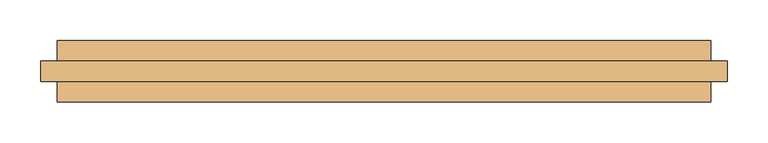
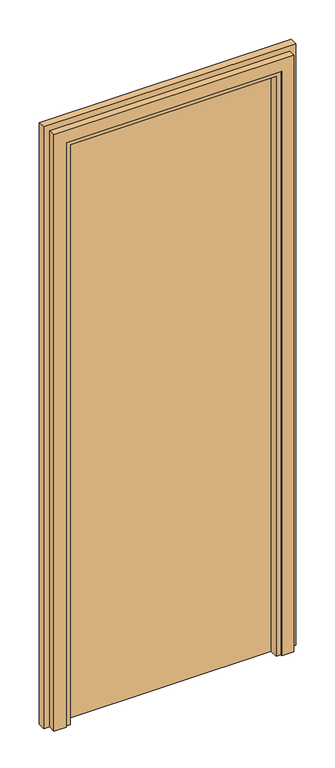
"""IFC4 building model written with IfcOpenShell, lengths in millimetres: door geometry, VERTI AERO - dveřní panel : AERO - dveřní panel."""

from ifc_helpers import new_model, si_unit, origin, origin_with_axes, place, context, project, spatial, polyline, outline, extrude, faceted_brep, source, transform, mapped, element, save


def door_572b5066(model_context):
    return source(origin(), model_context, "Body", "SolidModel", [
        extrude(outline(polyline([(359.0, -2.5), (-359.0, -2.5), (-359.0, 5.5), (359.0, 5.5), (359.0, -2.5)])), origin_with_axes(), (0.0, 0.0, 1.0), 2084.0),
        faceted_brep([(-359.0, -37.5, 0.0), (-400.0, -37.5, 0.0), (-400.0, -12.5, 0.0), (-420.0, -12.5, 0.0), (-420.0, 12.5, 0.0), (-400.0, 12.5, 0.0), (-400.0, 37.5, 0.0), (-359.0, 37.5, 0.0), (-359.0, -2.5, 0.0), (-343.0, -2.5, 0.0), (-343.0, -32.5, 0.0), (-359.0, -32.5, 0.0), (-359.0, -37.5, 2059.0), (359.0, -37.5, 2059.0), (359.0, -37.5, 0.0), (400.0, -37.5, 0.0), (400.0, -37.5, 2100.0), (-400.0, -37.5, 2100.0), (-400.0, -12.5, 2100.0), (400.0, -12.5, 2100.0), (400.0, -12.5, 0.0), (420.0, -12.5, 0.0), (420.0, -12.5, 2120.0), (-420.0, -12.5, 2120.0), (-420.0, 12.5, 2120.0), (420.0, 12.5, 2120.0), (420.0, 12.5, 0.0), (400.0, 12.5, 0.0), (400.0, 12.5, 2100.0), (-400.0, 12.5, 2100.0), (-400.0, 37.5, 2100.0), (400.0, 37.5, 2100.0), (400.0, 37.5, 0.0), (359.0, 37.5, 0.0), (359.0, 37.5, 2059.0), (-359.0, 37.5, 2059.0), (-359.0, -2.5, 2059.0), (359.0, -2.5, 2059.0), (359.0, -2.5, 0.0), (343.0, -2.5, 0.0), (343.0, -2.5, 2043.0), (-343.0, -2.5, 2043.0), (-343.0, -32.5, 2043.0), (343.0, -32.5, 2043.0), (343.0, -32.5, 0.0), (359.0, -32.5, 0.0), (359.0, -32.5, 2059.0), (-359.0, -32.5, 2059.0)], [[[0, 1, 2, 3, 4, 5, 6, 7, 8, 9, 10, 11]], [[1, 0, 12, 13, 14, 15, 16, 17]], [[2, 1, 17, 18]], [[3, 2, 18, 19, 20, 21, 22, 23]], [[4, 3, 23, 24]], [[5, 4, 24, 25, 26, 27, 28, 29]], [[6, 5, 29, 30]], [[7, 6, 30, 31, 32, 33, 34, 35]], [[8, 7, 35, 36]], [[9, 8, 36, 37, 38, 39, 40, 41]], [[10, 9, 41, 42]], [[11, 10, 42, 43, 44, 45, 46, 47]], [[0, 11, 47, 12]], [[13, 46, 45, 14]], [[14, 45, 44, 39, 38, 33, 32, 27, 26, 21, 20, 15]], [[19, 16, 15, 20]], [[31, 28, 27, 32]], [[37, 34, 33, 38]], [[43, 40, 39, 44]], [[25, 22, 21, 26]], [[12, 47, 46, 13]], [[18, 17, 16, 19]], [[30, 29, 28, 31]], [[36, 35, 34, 37]], [[42, 41, 40, 43]], [[24, 23, 22, 25]]]),
    ])


if __name__ == "__main__":
    model = new_model("IFC4")
    model_context = context("Model", 3, world=origin())
    ifc_project = project(units=[si_unit("LENGTHUNIT", "METRE", prefix="MILLI")], contexts=[model_context])
    site = spatial("IfcSite", under=ifc_project)
    building = spatial("IfcBuilding", under=site)
    placement = place(None, origin())
    door_shape = door_572b5066(model_context)
    element("IfcDoor", 1, ObjectType="VERTI AERO - dveřní panel : AERO - dveřní panel", at=placement, inside=building, context=model_context, shape_type="MappedRepresentation", body=[
        mapped(door_shape, transform((0.0, 0.0, 0.0), x_axis=(1.0, 0.0, 0.0), y_axis=(0.0, 1.0, 0.0), z_axis=(0.0, 0.0, 1.0))),
    ])
    save(model, "model.ifc")
